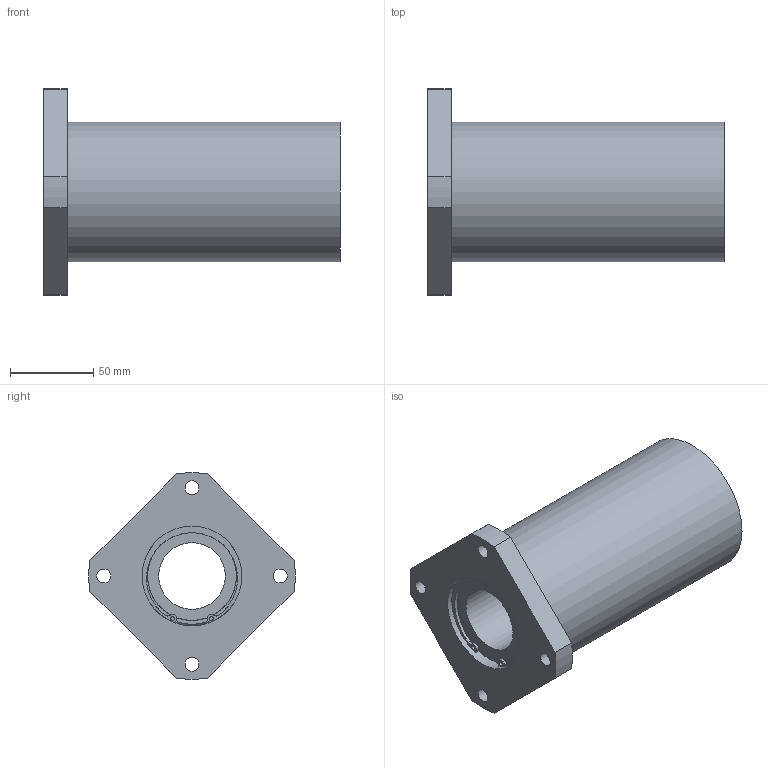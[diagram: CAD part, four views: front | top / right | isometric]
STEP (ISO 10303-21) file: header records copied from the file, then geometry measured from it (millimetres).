
FILE_DESCRIPTION((''),'2;1');
FILE_NAME('C:\Documents and Settings\土屋\My Documents\土屋移動用フォルダ\製品 (図面)\カタログ用3D\変換ファイル\OZAK_3D-CAD(STEP形式)\Part1.-Linear Bearings_ﾘﾆｱﾍﾞｱﾘﾝｸﾞ\09_Maintenance Free_ﾒｲﾝﾃﾅﾝｽﾌﾘｰ\L2017-09-21T17:53:08','2017-09-21T17:53:08',('y'),(''),'Autodesk Inventor 11','Autodesk Inventor 11','');
FILE_SCHEMA(('AUTOMOTIVE_DESIGN { 1 0 10303 214 1 1 1 1 }'));
Length unit declared in the file: millimetre
Products named in the file (1): LFWK40MF
Bounding box: 178 x 123.84 x 123.84 mm (x, y, z)
Volume: 800528.9 mm3; surface area: 94074.5 mm2
Topology: 1 solids, 3 shells, 71 faces, 188 edges, 118 vertices
Faces by surface type: plane 30, cylinder 25, bspline 14, torus 2
Full cylindrical faces by diameter (mm): 2.5 x2, 8.376 x4, 40 x1, 53.4 x2, 57 x2, 60 x4, 84 x1
Entity records: 2140 total; most frequent: CARTESIAN_POINT 464, DIRECTION 372, ORIENTED_EDGE 300, AXIS2_PLACEMENT_3D 164, EDGE_CURVE 150, EDGE_LOOP 114, CIRCLE 106, VERTEX_POINT 102
